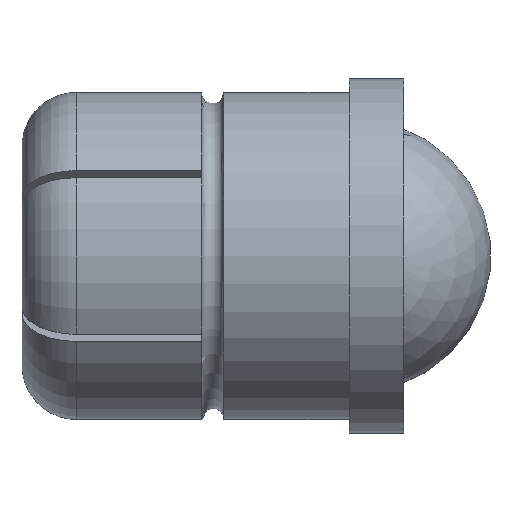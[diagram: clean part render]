
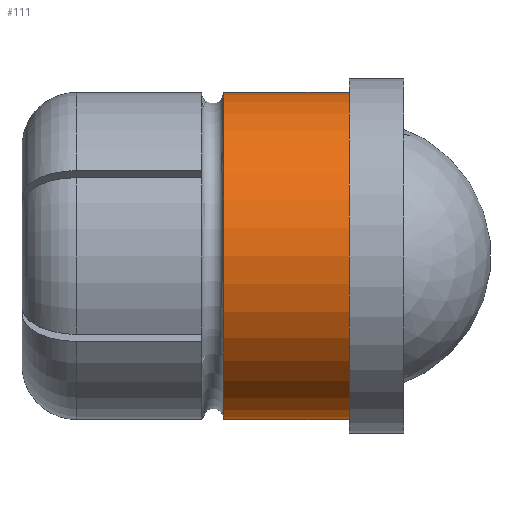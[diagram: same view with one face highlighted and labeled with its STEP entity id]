
A CAD part, front view. The second image highlights one B-rep face of the part: STEP entity #111.
In plain terms, the highlighted cylindrical face has radius 3 mm (diameter 6 mm), a full revolution.
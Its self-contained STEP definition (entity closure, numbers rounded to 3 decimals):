
#111 = ADVANCED_FACE( '', ( #216, #217 ), #218, .T. );
#216 = FACE_OUTER_BOUND( '', #349, .T. );
#217 = FACE_OUTER_BOUND( '', #350, .T. );
#218 = CYLINDRICAL_SURFACE( '', #351, 3. );
#349 = EDGE_LOOP( '', ( #712 ) );
#350 = EDGE_LOOP( '', ( #713 ) );
#351 = AXIS2_PLACEMENT_3D( '', #714, #715, #716 );
#712 = ORIENTED_EDGE( '', *, *, #1045, .F. );
#713 = ORIENTED_EDGE( '', *, *, #1046, .T. );
#714 = CARTESIAN_POINT( '', ( 1., 0., 0. ) );
#715 = DIRECTION( '', ( -1., 0., 0. ) );
#716 = DIRECTION( '', ( 0., 0., -1. ) );
#1045 = EDGE_CURVE( '', #1303, #1303, #1304, .T. );
#1046 = EDGE_CURVE( '', #1305, #1305, #1306, .T. );
#1303 = VERTEX_POINT( '', #1791 );
#1304 = CIRCLE( '', #1792, 3. );
#1305 = VERTEX_POINT( '', #1793 );
#1306 = CIRCLE( '', #1794, 3. );
#1791 = CARTESIAN_POINT( '', ( 0., 0., -3. ) );
#1792 = AXIS2_PLACEMENT_3D( '', #2008, #2009, #2010 );
#1793 = CARTESIAN_POINT( '', ( -2.3, 0., -3. ) );
#1794 = AXIS2_PLACEMENT_3D( '', #2011, #2012, #2013 );
#2008 = CARTESIAN_POINT( '', ( 0., 0., 0. ) );
#2009 = DIRECTION( '', ( 1., 0., 0. ) );
#2010 = DIRECTION( '', ( 0., 0., -1. ) );
#2011 = CARTESIAN_POINT( '', ( -2.3, 0., 0. ) );
#2012 = DIRECTION( '', ( 1., 0., 0. ) );
#2013 = DIRECTION( '', ( 0., 0., -1. ) );
